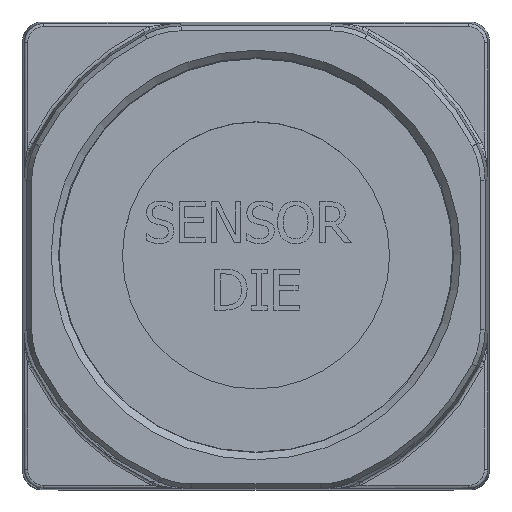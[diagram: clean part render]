
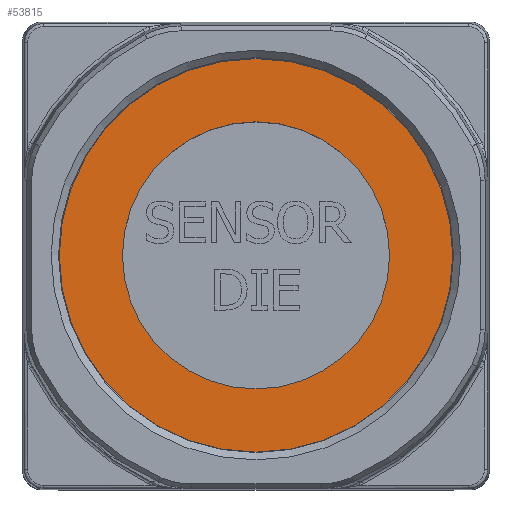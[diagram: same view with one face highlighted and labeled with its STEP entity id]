
A CAD part, top view. The second image highlights one B-rep face of the part: STEP entity #53815.
In plain terms, the highlighted planar face has unit normal (0, 0, 1).
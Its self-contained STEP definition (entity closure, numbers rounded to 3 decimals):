
#13179=FACE_BOUND('',#19084,.T.);
#16118=FACE_OUTER_BOUND('',#19083,.T.);
#19083=EDGE_LOOP('',(#42582));
#19084=EDGE_LOOP('',(#42583));
#21404=CIRCLE('',#56645,12.225);
#21928=CIRCLE('',#57803,8.3);
#23750=VERTEX_POINT('',#152948);
#24845=VERTEX_POINT('',#158300);
#29652=EDGE_CURVE('',#23750,#23750,#21404,.T.);
#31297=EDGE_CURVE('',#24845,#24845,#21928,.T.);
#42582=ORIENTED_EDGE('',*,*,#29652,.F.);
#42583=ORIENTED_EDGE('',*,*,#31297,.T.);
#51425=PLANE('',#57827);
#53815=ADVANCED_FACE('',(#16118,#13179),#51425,.T.);
#56645=AXIS2_PLACEMENT_3D('',#152949,#62751,#62752);
#57803=AXIS2_PLACEMENT_3D('',#158301,#65885,#65886);
#57827=AXIS2_PLACEMENT_3D('',#158425,#65943,#65944);
#62751=DIRECTION('center_axis',(0.,0.,
-1.));
#62752=DIRECTION('ref_axis',(0.,1.,0.));
#65885=DIRECTION('center_axis',(0.,0.,
-1.));
#65886=DIRECTION('ref_axis',(1.,0.,0.));
#65943=DIRECTION('center_axis',(0.,0.,
1.));
#65944=DIRECTION('ref_axis',(-1.,0.,0.));
#152948=CARTESIAN_POINT('',(0.,-12.225,0.));
#152949=CARTESIAN_POINT('Origin',(0.,0.,
0.));
#158300=CARTESIAN_POINT('',(-8.3,0.,0.));
#158301=CARTESIAN_POINT('Origin',(0.,0.,
0.));
#158425=CARTESIAN_POINT('Origin',(0.,-0.1,
0.));
